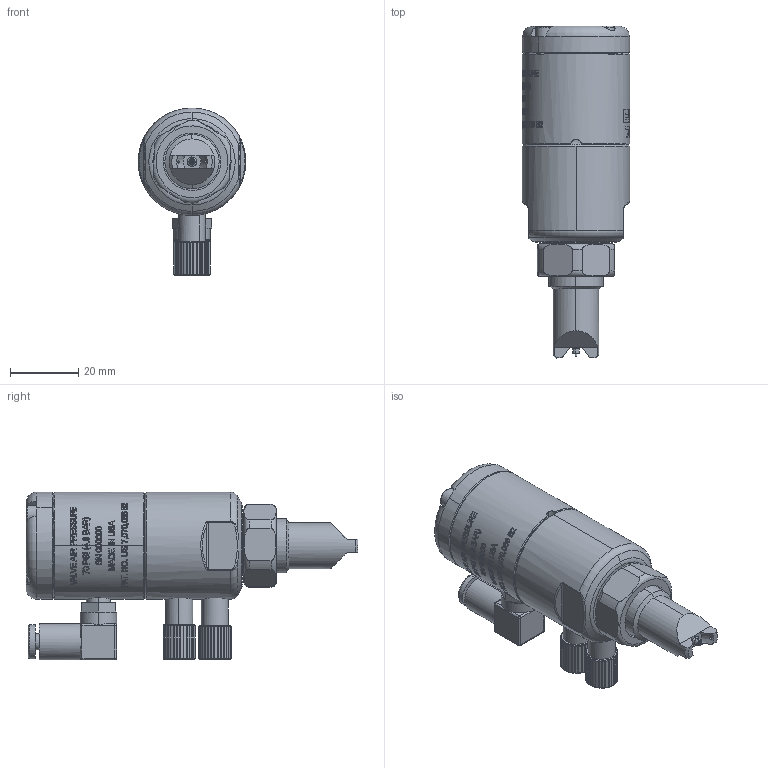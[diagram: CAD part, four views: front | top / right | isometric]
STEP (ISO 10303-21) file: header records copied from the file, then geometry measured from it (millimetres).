
FILE_DESCRIPTION (( 'STEP AP214' ), '1' );
FILE_NAME ('NORDSONEFD-7013000 784S-SS-F MICROSPRAY VALVE 316L FAN.STEP', '2019-07-06T16:49:48', ( '' ), ( '' ), 'SwSTEP 2.0', 'SolidWorks 2019', '' );
FILE_SCHEMA (( 'AUTOMOTIVE_DESIGN' ));
Length unit declared in the file: inch
Products named in the file (1): NORDSONEFD-7013000 784S-SS-F MICROSPRAY VALVE 316L FAN
Bounding box: 31.37 x 96.95 x 49.03 mm (x, y, z)
Volume: 58689.7 mm3; surface area: 14277.2 mm2
Topology: 1 solids, 1 shells, 1901 faces, 4859 edges, 3094 vertices
Faces by surface type: plane 728, bspline 596, cylinder 324, cone 216, torus 29, sphere 8
Entity records: 114179 total; most frequent: CARTESIAN_POINT 68406, ORIENTED_EDGE 9682, DIRECTION 6372, EDGE_CURVE 4841, VERTEX_POINT 3094, AXIS2_PLACEMENT_3D 2477, B_SPLINE_CURVE_WITH_KNOTS 2212, EDGE_LOOP 2053
